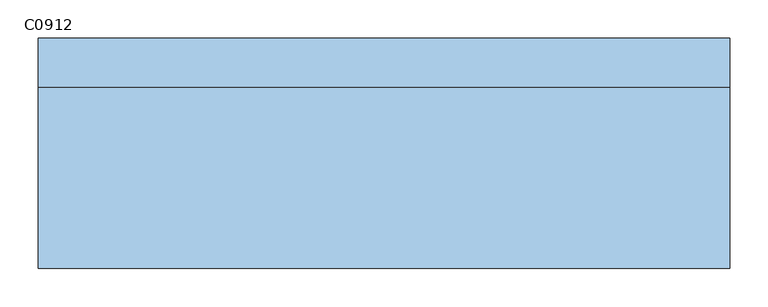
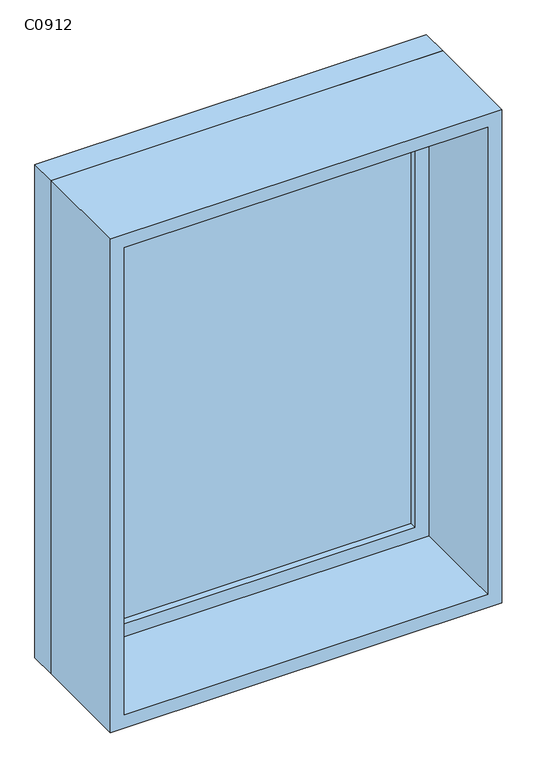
"""IFC4 building model written with IfcOpenShell, lengths in millimetres: window geometry, 固定窗 : C0912."""

from ifc_helpers import new_model, si_unit, frame, origin, place, context, project, spatial, polyline, outline, extrude, source, transform, mapped, element, save


def c0912_61d2042c(model_context):
    return source(origin(), model_context, "Body", "SweptSolid", [
        extrude(outline(polyline([(348.4, 101.425), (-424.6, 101.425), (-424.6, 114.125), (348.4, 114.125), (348.4, 101.425)])), frame((0.0, 0.0, 963.5), z_axis=(0.0, 0.0, 1.0), x_axis=(1.0, 0.0, 0.0)), (0.0, 0.0, 1.0), 1073.0),
        extrude(outline(polyline([(2080.95, -469.05), (919.05, -469.05), (919.05, 392.85), (2080.95, 392.85), (2080.95, -469.05)]), holes=[polyline([(2036.5, -424.6), (2036.5, 348.4), (963.5, 348.4), (963.5, -424.6), (2036.5, -424.6)])]), frame((0.0, 85.55, 0.0), z_axis=(0.0, 1.0, 0.0), x_axis=(0.0, 0.0, 1.0)), (0.0, 0.0, 1.0), 44.45),
        extrude(outline(polyline([(2100.0, -488.1), (900.0, -488.1), (900.0, 411.9), (2100.0, 411.9), (2100.0, -488.1)]), holes=[polyline([(2068.25, -456.35), (2068.25, 380.15), (931.75, 380.15), (931.75, -456.35), (2068.25, -456.35)])]), frame((0.0, -150.0, 0.0), z_axis=(0.0, 1.0, 0.0), x_axis=(0.0, 0.0, 1.0)), (0.0, 0.0, 1.0), 235.55),
        extrude(outline(polyline([(2100.0, 411.9), (2100.0, -488.1), (900.0, -488.1), (900.0, 411.9), (2100.0, 411.9)]), holes=[polyline([(2080.95, 392.85), (919.05, 392.85), (919.05, -469.05), (2080.95, -469.05), (2080.95, 392.85)])]), frame((0.0, 85.55, 0.0), z_axis=(0.0, 1.0, 0.0), x_axis=(0.0, 0.0, 1.0)), (0.0, 0.0, 1.0), 64.45),
    ])


if __name__ == "__main__":
    model = new_model("IFC4")
    model_context = context("Model", 3, world=origin())
    ifc_project = project(units=[si_unit("LENGTHUNIT", "METRE", prefix="MILLI")], contexts=[model_context])
    site = spatial("IfcSite", under=ifc_project)
    building = spatial("IfcBuilding", under=site)
    placement = place(None, origin())
    c0912_shape = c0912_61d2042c(model_context)
    element("IfcWindow", 1, ObjectType="固定窗 : C0912", at=placement, inside=building, context=model_context, shape_type="MappedRepresentation", body=[
        mapped(c0912_shape, transform((0.0, 0.0, 0.0), x_axis=(1.0, 0.0, 0.0), y_axis=(0.0, 1.0, 0.0), z_axis=(0.0, 0.0, 1.0))),
    ])
    save(model, "model.ifc")
